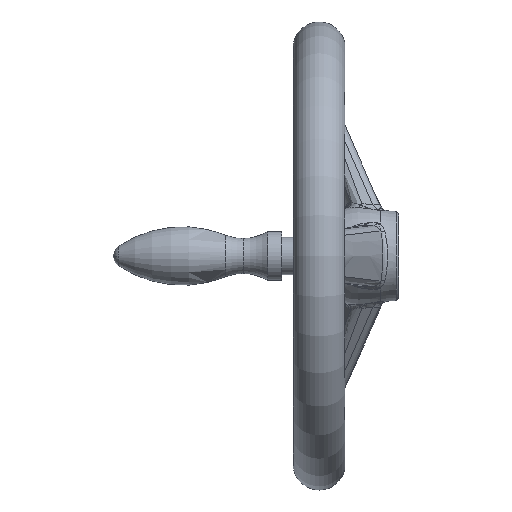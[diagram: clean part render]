
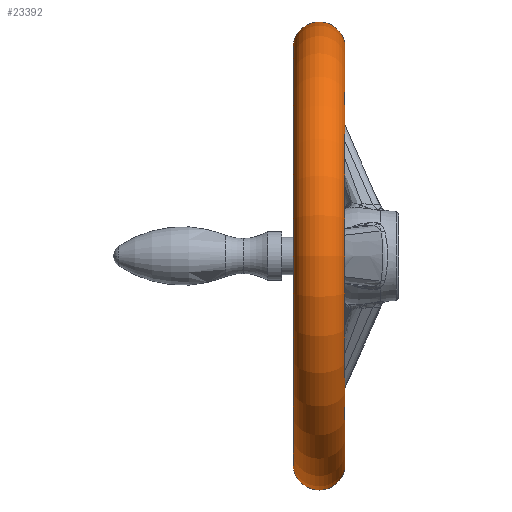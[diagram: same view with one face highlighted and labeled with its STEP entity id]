
A CAD part, left-side view. The second image highlights one B-rep face of the part: STEP entity #23392.
In plain terms, the highlighted toroidal (fillet/blend) face has major radius 88.778 mm and minor radius 11.222 mm.
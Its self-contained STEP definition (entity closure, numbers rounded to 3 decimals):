
#1071 = EDGE_CURVE ( 'NONE', #22889, #1356, #24246, .T. ) ;
#1072 = EDGE_CURVE ( 'NONE', #22938, #1402, #24169, .T. ) ;
#1086 = EDGE_CURVE ( 'NONE', #1402, #1356, #24287, .T. ) ;
#1356 = VERTEX_POINT ( 'NONE', #24294 ) ;
#1402 = VERTEX_POINT ( 'NONE', #24340 ) ;
#6566 = AXIS2_PLACEMENT_3D ( 'NONE', #6622, #6612, #6611 ) ;
#6567 = CIRCLE ( 'NONE', #6566, 91. ) ;
#6611 = DIRECTION ( 'NONE',  ( 0., 0., -1. ) ) ;
#6612 = DIRECTION ( 'NONE',  ( 0., -1., 0. ) ) ;
#6622 = CARTESIAN_POINT ( 'NONE',  ( 0., 45., 0. ) ) ;
#6637 = CARTESIAN_POINT ( 'NONE',  ( 0., 45., -91. ) ) ;
#6808 = CARTESIAN_POINT ( 'NONE',  ( 0., 45., 91. ) ) ;
#7023 = FACE_OUTER_BOUND ( 'NONE', #22759, .T. ) ;
#7104 = DIRECTION ( 'NONE',  ( 0., 0., -1. ) ) ;
#7105 = DIRECTION ( 'NONE',  ( 0., -1., 0. ) ) ;
#7106 = CARTESIAN_POINT ( 'NONE',  ( 0., 34., 0. ) ) ;
#7111 = TOROIDAL_SURFACE ( 'NONE', #7112, 88.778, 11.222 ) ;
#7112 = AXIS2_PLACEMENT_3D ( 'NONE', #7106, #7105, #7104 ) ;
#22759 = EDGE_LOOP ( 'NONE', ( #23474, #23451, #23566, #23373 ) ) ;
#22870 = EDGE_CURVE ( 'NONE', #22938, #22889, #6567, .T. ) ;
#22889 = VERTEX_POINT ( 'NONE', #6637 ) ;
#22938 = VERTEX_POINT ( 'NONE', #6808 ) ;
#23373 = ORIENTED_EDGE ( 'NONE', *, *, #1086, .F. ) ;
#23392 = ADVANCED_FACE ( 'NONE', ( #7023 ), #7111, .T. ) ;
#23451 = ORIENTED_EDGE ( 'NONE', *, *, #22870, .T. ) ;
#23474 = ORIENTED_EDGE ( 'NONE', *, *, #1072, .F. ) ;
#23566 = ORIENTED_EDGE ( 'NONE', *, *, #1071, .T. ) ;
#24169 = CIRCLE ( 'NONE', #24302, 11.222 ) ;
#24232 = DIRECTION ( 'NONE',  ( 0., 0., 1. ) ) ;
#24233 = DIRECTION ( 'NONE',  ( -1., 0., 0. ) ) ;
#24234 = AXIS2_PLACEMENT_3D ( 'NONE', #24254, #24233, #24232 ) ;
#24235 = CARTESIAN_POINT ( 'NONE',  ( 0., 34., 88.778 ) ) ;
#24246 = CIRCLE ( 'NONE', #24234, 11.222 ) ;
#24254 = CARTESIAN_POINT ( 'NONE',  ( 0., 34., -88.778 ) ) ;
#24284 = DIRECTION ( 'NONE',  ( 0., 0., -1. ) ) ;
#24285 = DIRECTION ( 'NONE',  ( 0., -1., 0. ) ) ;
#24287 = CIRCLE ( 'NONE', #24301, 91. ) ;
#24293 = CARTESIAN_POINT ( 'NONE',  ( 0., 23., 0. ) ) ;
#24294 = CARTESIAN_POINT ( 'NONE',  ( 0., 23., -91. ) ) ;
#24295 = DIRECTION ( 'NONE',  ( 0., 0., -1. ) ) ;
#24296 = DIRECTION ( 'NONE',  ( 1., 0., 0. ) ) ;
#24301 = AXIS2_PLACEMENT_3D ( 'NONE', #24293, #24285, #24284 ) ;
#24302 = AXIS2_PLACEMENT_3D ( 'NONE', #24235, #24296, #24295 ) ;
#24340 = CARTESIAN_POINT ( 'NONE',  ( 0., 23., 91. ) ) ;
